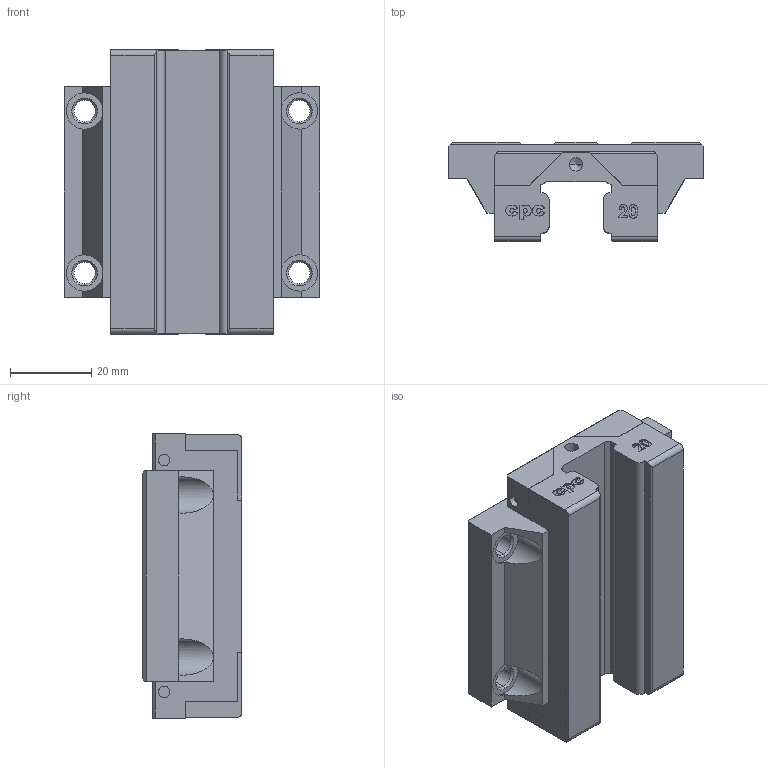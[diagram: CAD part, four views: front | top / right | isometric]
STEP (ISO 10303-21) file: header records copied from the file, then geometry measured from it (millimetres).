
FILE_DESCRIPTION (( 'STEP AP203' ), '1' );
FILE_NAME ('HR20_FN.STEP', '2009-08-03T10:40:49', ( 'cpc' ), ( '' ), 'SwSTEP 2.0', 'SolidWorks 2007', '' );
FILE_SCHEMA (( 'CONFIG_CONTROL_DESIGN' ));
Length unit declared in the file: millimetre
Products named in the file (1): HR20_FN
Bounding box: 63 x 24.5 x 70.2 mm (x, y, z)
Volume: 64331.4 mm3; surface area: 16204.9 mm2
Topology: 1 solids, 1 shells, 280 faces, 756 edges, 494 vertices
Faces by surface type: plane 132, bspline 90, cylinder 38, cone 20
Entity records: 13586 total; most frequent: CARTESIAN_POINT 7110, ORIENTED_EDGE 1504, DIRECTION 1010, EDGE_CURVE 752, VERTEX_POINT 494, VECTOR 460, LINE 460, EDGE_LOOP 308
